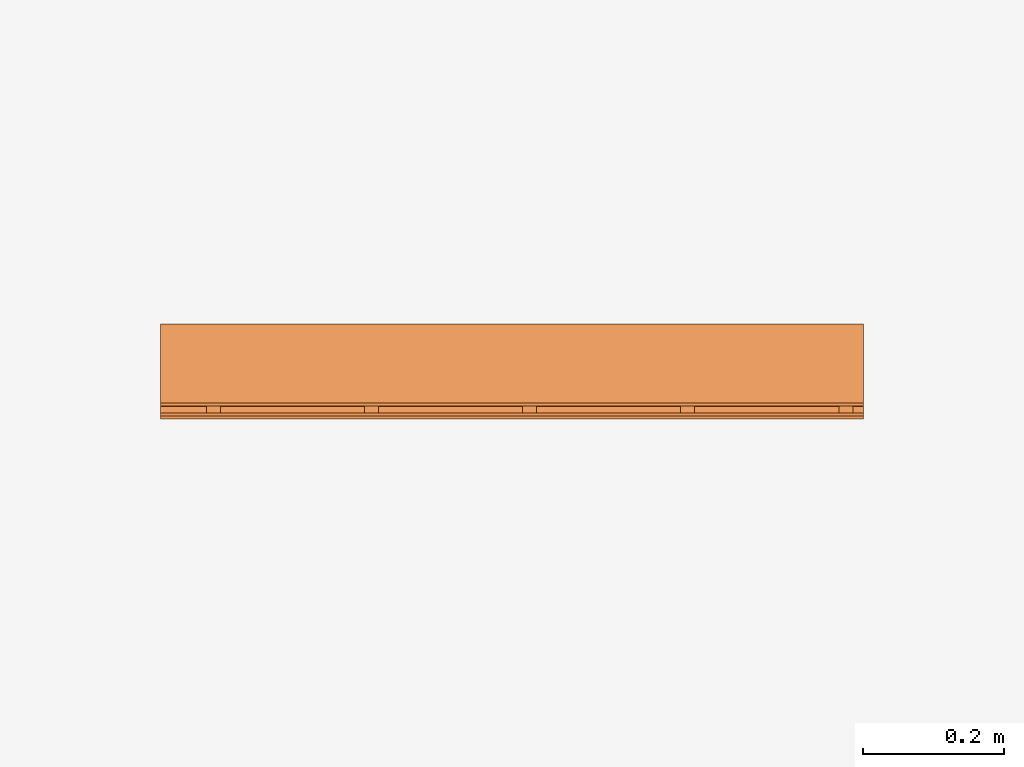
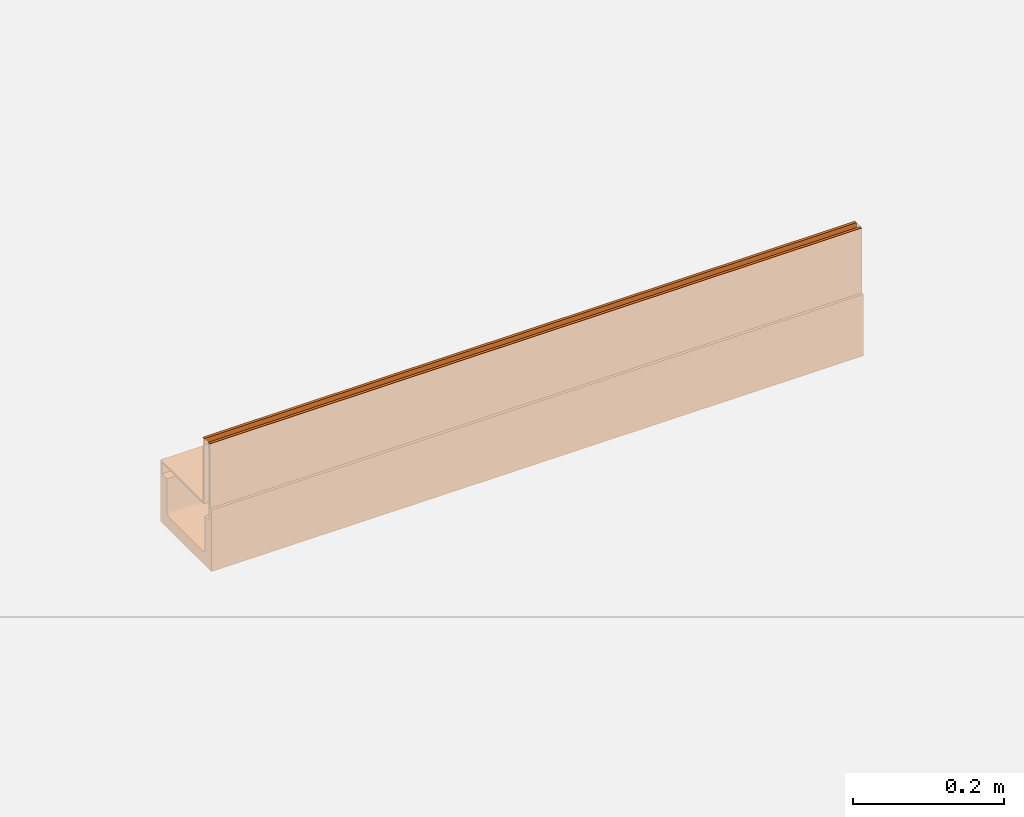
# One storey, part 2 of 2: 1 proxy.
"""IFC2X3 building model written with IfcOpenShell, lengths in millimetres."""

from ifc_helpers import new_model, entity, si_unit, converted_unit, direction, frame, frame_2d, origin, place, context, subcontext, project, spatial, polyline, circle_curve, parameter, trimmed, segment, composite_curve, outline, extrude, source, transform, mapped, material, material_list, element, save


model = new_model("IFC2X3")

# Units and contexts
model_context = context("Model", 3, precision=1e-06, world=origin(), true_north=direction((2.0, 6.12303176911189e-17, 1.0)))
context_of_model = context(None, 3, precision=1e-06, world=origin(), true_north=direction((2.0, 6.12303176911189e-17, 1.0)))
body_context = subcontext(model_context, "Body", "Model", "MODEL_VIEW")
ifc_project = project(units=[si_unit("LENGTHUNIT", "METRE", prefix="MILLI"), si_unit("AREAUNIT", "SQUARE_METRE", prefix="MILLI"), si_unit("VOLUMEUNIT", "CUBIC_METRE", prefix="MILLI"), converted_unit("PLANEANGLEUNIT", "DEGREE", entity("IfcRatioMeasure", 0.0174532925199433), si_unit("PLANEANGLEUNIT", "RADIAN"), dimensions=[0, 0, 0, 0, 0, 0, 0]), si_unit("TIMEUNIT", "SECOND")], contexts=[model_context, context_of_model])

# Site, building, storey
site_placement = place(None, origin())
site = spatial("IfcSite", under=ifc_project, at=site_placement, Name="Default", CompositionType="ELEMENT")
building_placement = place(site_placement, origin())
building = spatial("IfcBuilding", under=site, at=building_placement, CompositionType="ELEMENT")
storey_placement = place(building_placement, origin())
storey = spatial("IfcBuildingStorey", under=building, at=storey_placement, Name="Level 1", CompositionType="ELEMENT", Elevation=0.0)

# Proxy
ifc_material_1 = material(Name="Steel, Galvanized")
ifc_material_2 = material(Name="Vienite® Synthetic Resin Concrete")
ifc_material_list = material_list([ifc_material_1, ifc_material_2])
shared_shape = source(origin(), body_context, "Body", "SweptSolid", [
    extrude(outline(polyline([(-9.24999999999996, -10.0), (9.25000000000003, -10.0), (9.25, 10.0), (-9.25000000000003, 10.0), (-9.24999999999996, -10.0)]), holes=[polyline([(7.25000000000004, -8.0), (-7.25000000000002, -8.0), (-7.25000000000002, 8.0), (7.24999999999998, 8.0), (7.25000000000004, -8.0)])]), frame((-61.250000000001, 25.0, -116.249999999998), z_axis=(1.0, 0.0, 0.0), x_axis=(0.0, 0.0, -1.0)), (0.0, 0.0, 1.0), 124.5),
    extrude(outline(polyline([(45.5, -29.6250000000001), (55.5, -29.6250000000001), (55.5, -25.6249999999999), (-49.5, -25.6249999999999), (-49.5000000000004, 82.875), (-51.5, 82.875), (-51.4999999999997, -27.625), (45.5, -27.625), (45.5, -29.6250000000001)])), frame((-19.6250000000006, 0.0, -55.4999999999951), z_axis=(0.0, 1.0, 0.0), x_axis=(0.0, 0.0, 1.0)), (0.0, 0.0, 1.0), 1000.0),
    extrude(outline(polyline([(-80.3333333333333, -2.0), (45.1666666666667, -2.0), (45.1666666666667, 2.0), (35.1666666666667, 2.0), (35.1666666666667, 0.0), (-80.3333333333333, 0.0), (-80.3333333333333, -2.0)])), frame((-61.2500000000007, 0.0, -45.1666666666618), z_axis=(0.0, 1.0, 0.0), x_axis=(0.0, 0.0, 1.0)), (0.0, 0.0, 1.0), 1000.0),
    extrude(outline(polyline([(-9.24999999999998, -10.0), (9.25000000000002, -10.0), (9.24999999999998, 10.0), (-9.25000000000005, 10.0), (-9.24999999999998, -10.0)]), holes=[polyline([(7.25000000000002, -8.0), (-7.25000000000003, -8.0), (-7.25000000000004, 8.0), (7.24999999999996, 8.0), (7.25000000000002, -8.0)])]), frame((-61.2500000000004, 475.0, -116.249999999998), z_axis=(1.0, 0.0, 0.0), x_axis=(0.0, 0.0, -1.0)), (0.0, 0.0, 1.0), 124.5),
    extrude(outline(polyline([(-9.24999999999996, -10.0), (9.25000000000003, -10.0), (9.24999999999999, 10.0), (-9.25000000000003, 10.0), (-9.24999999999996, -10.0)]), holes=[polyline([(7.25000000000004, -8.0), (-7.25000000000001, -8.0), (-7.25000000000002, 8.0), (7.24999999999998, 8.0), (7.25000000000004, -8.0)])]), frame((-61.2500000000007, 250.0, -116.249999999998), z_axis=(1.0, 0.0, 0.0), x_axis=(0.0, 0.0, -1.0)), (0.0, 0.0, 1.0), 124.5),
    extrude(outline(composite_curve([segment(polyline([(-42.2857142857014, -67.4999999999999), (57.7142857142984, -67.4999999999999)]), True, "CONTINUOUS"), segment(polyline([(57.7142857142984, -67.4999999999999), (57.7142857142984, 67.5000000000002)]), True, "CONTINUOUS"), segment(polyline([(57.7142857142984, 67.5000000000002), (-42.2857142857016, 67.5000000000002)]), True, "CONTINUOUS"), segment(polyline([(-42.2857142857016, 67.5000000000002), (-42.2857142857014, 63.2500000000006)]), True, "CONTINUOUS"), segment(polyline([(-42.2857142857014, 63.2500000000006), (-21.7857142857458, 63.2500000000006)]), True, "CONTINUOUS"), segment(polyline([(-21.7857142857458, 63.2500000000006), (-21.7857142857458, 50.0)]), True, "CONTINUOUS"), segment(polyline([(-21.7857142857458, 50.0), (32.7142857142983, 50.0)]), True, "CONTINUOUS"), segment(trimmed(circle_curve(frame_2d((32.7142857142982, 45.0), x_axis=(0.0, -1.0)), 5.0), [parameter(89.9999999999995)], [parameter(179.999999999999)], True, "PARAMETER"), False, "CONTINUOUS"), segment(polyline([(37.7142857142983, 45.0), (37.7142857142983, -45.0)]), True, "CONTINUOUS"), segment(trimmed(circle_curve(frame_2d((32.7142857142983, -45.0), x_axis=(0.0, -1.0)), 5.0), [parameter(0.0)], [parameter(90.0000000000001)], True, "PARAMETER"), False, "CONTINUOUS"), segment(polyline([(32.7142857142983, -50.0), (-21.7857142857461, -50.0)]), True, "CONTINUOUS"), segment(polyline([(-21.7857142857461, -50.0), (-21.7857142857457, -63.2499999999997)]), True, "CONTINUOUS"), segment(polyline([(-21.7857142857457, -63.2499999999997), (-42.285714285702, -63.2499999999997)]), True, "CONTINUOUS"), segment(polyline([(-42.285714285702, -63.2499999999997), (-42.2857142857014, -67.4999999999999)]), True, "CONTINUOUS")], self_intersect=False)), frame((0.0, 0.0, -147.285714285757), z_axis=(0.0, 1.0, 0.0), x_axis=(0.0, 0.0, -1.0)), (0.0, 0.0, 1.0), 1000.0),
    extrude(outline(polyline([(-9.24999999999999, -10.0), (9.24999999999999, -10.0), (9.25000000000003, 10.0), (-9.24999999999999, 10.0), (-9.24999999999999, -10.0)]), holes=[polyline([(7.25000000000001, -8.0), (-7.25000000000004, -8.0), (-7.24999999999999, 8.0), (7.25000000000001, 8.0), (7.25000000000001, -8.0)])]), frame((-61.2499999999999, 925.0, -116.249999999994), z_axis=(1.0, 0.0, 0.0), x_axis=(0.0, 0.0, -1.0)), (0.0, 0.0, 1.0), 124.5),
    extrude(outline(polyline([(-9.25000000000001, -10.0), (9.24999999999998, -10.0), (9.25000000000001, 10.0), (-9.25000000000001, 10.0), (-9.25000000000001, -10.0)]), holes=[polyline([(7.24999999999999, -8.0), (-7.25000000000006, -8.0), (-7.25000000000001, 8.0), (7.24999999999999, 8.0), (7.24999999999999, -8.0)])]), frame((-61.2500000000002, 700.0, -116.249999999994), z_axis=(1.0, 0.0, 0.0), x_axis=(0.0, 0.0, -1.0)), (0.0, 0.0, 1.0), 124.5),
])
proxy_placement = place(storey_placement, frame((143.656586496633, 99.9218925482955, 0.0), z_axis=(0.0, 0.0, 1.0), x_axis=(0.0, 1.0, 0.0)))
element("IfcBuildingElementProxy", 1, at=proxy_placement, inside=storey, material=ifc_material_list, Name="Civil-Drainage-Channel-ACO-MultiDrain-M100D-Brickslot-Channel-System:23110 - No 0100 Constant Depth Shallow Channel - 1000mm LG - Invert Depth 80mm:23110 - No 0100 Constant Depth Shallow Channel - 1000mm LG - Invert Depth 80mm", ObjectType="23110 - No 0100 Constant Depth Shallow Channel - 1000mm LG - Invert Depth 80mm", CompositionType="ELEMENT", context=body_context, shape_type="MappedRepresentation", body=[
    mapped(shared_shape, transform((0.0, 0.0, 0.0), scale=1.0)),
])

save(model, "model.ifc")
